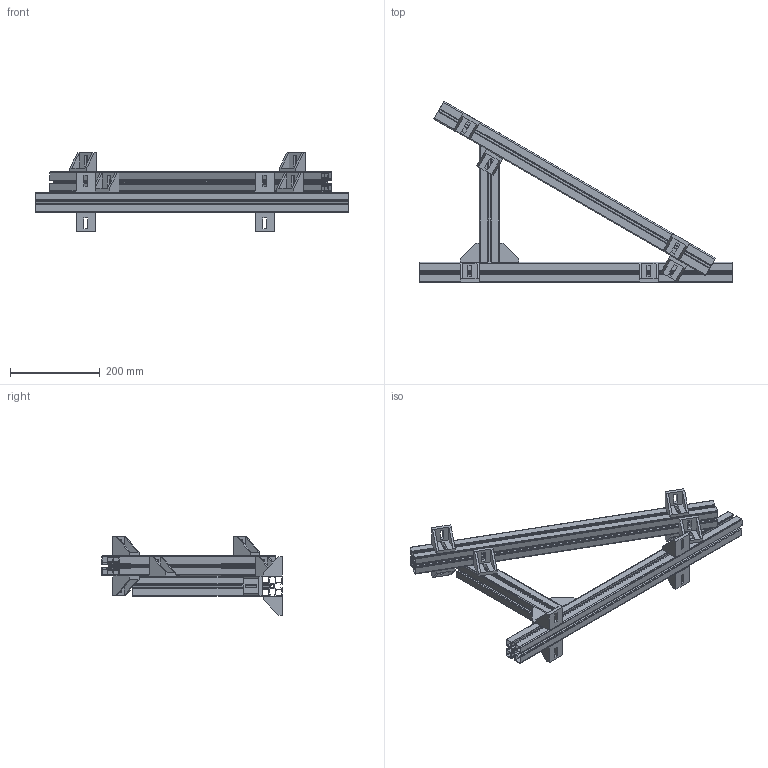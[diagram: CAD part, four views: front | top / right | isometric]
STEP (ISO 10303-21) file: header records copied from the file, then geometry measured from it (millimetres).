
FILE_DESCRIPTION (( 'STEP AP203' ), '1' );
FILE_NAME ('084.106.307.STEP', '2015-05-20T10:32:01', ( '' ), ( '' ), 'SwSTEP 2.0', 'SolidWorks 2012', '' );
FILE_SCHEMA (( 'CONFIG_CONTROL_DESIGN' ));
Length unit declared in the file: millimetre
Products named in the file (1): 084.106.307
Bounding box: 700 x 403.99 x 176 mm (x, y, z)
Volume: 1077511.3 mm3; surface area: 1172681.8 mm2
Topology: 15 solids, 15 shells, 683 faces, 1902 edges, 1248 vertices
Faces by surface type: plane 481, cylinder 202
Entity records: 21970 total; most frequent: CARTESIAN_POINT 3973, ORIENTED_EDGE 3804, DIRECTION 3612, EDGE_CURVE 1902, LINE 1502, VECTOR 1502, VERTEX_POINT 1248, AXIS2_PLACEMENT_3D 1055
